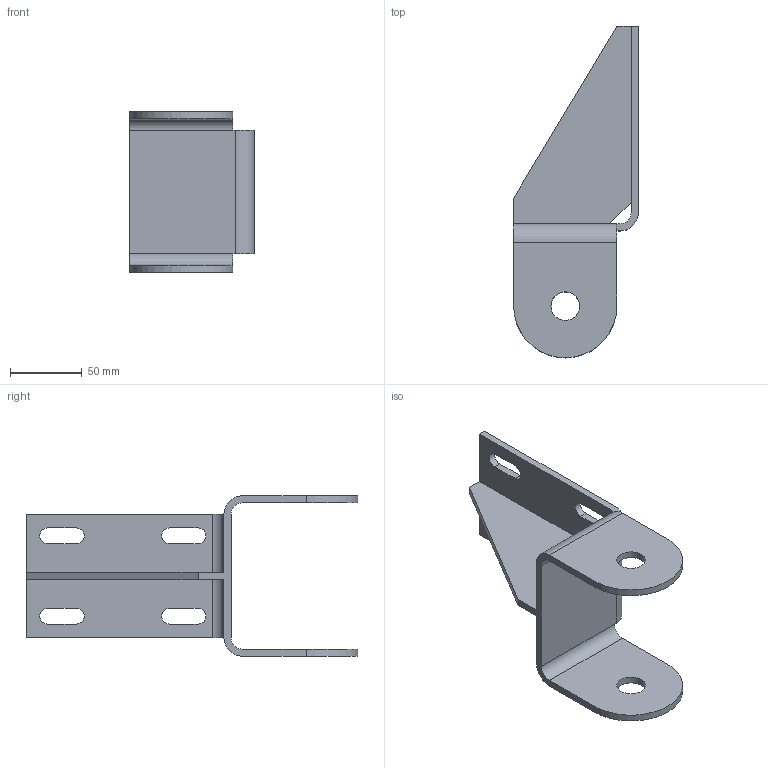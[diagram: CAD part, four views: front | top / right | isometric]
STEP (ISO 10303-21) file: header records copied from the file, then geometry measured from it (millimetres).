
FILE_DESCRIPTION(/* description */ (''),/* implementation_level */ '2;1');
FILE_NAME(/* name */ '2020TOMO-TELAIO.Rullo.01.stp',/* time_stamp */ '2022-05-18T14:11:24+02:00',/* author */ (''),/* organization */ (''),/* preprocessor_version */ 'ST-DEVELOPER v18.102',/* originating_system */ 'SIEMENS PLM Software NX 2000',/* authorisation */ '');
FILE_SCHEMA (('AUTOMOTIVE_DESIGN { 1 0 10303 214 3 1 1 1 }'));
Length unit declared in the file: millimetre
Products named in the file (1): turc33109A102ivz
Bounding box: 87 x 231.5 x 112 mm (x, y, z)
Volume: 184060.1 mm3; surface area: 80435.1 mm2
Topology: 1 solids, 1 shells, 44 faces, 129 edges, 85 vertices
Faces by surface type: plane 26, cylinder 18
Full cylindrical faces by diameter (mm): 20 x2
Entity records: 1506 total; most frequent: CARTESIAN_POINT 255, ORIENTED_EDGE 252, DIRECTION 252, EDGE_CURVE 126, LINE 90, VECTOR 90, VERTEX_POINT 84, AXIS2_PLACEMENT_3D 81
